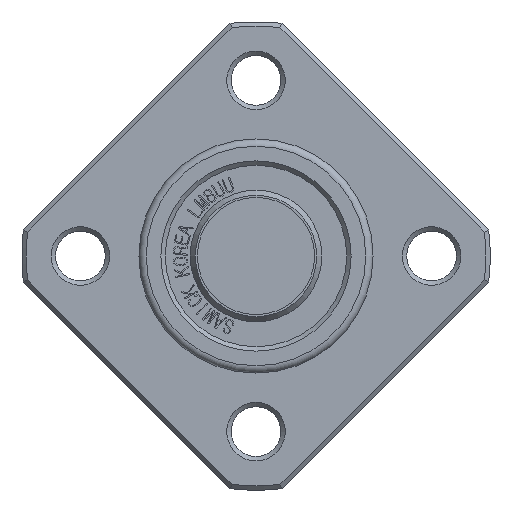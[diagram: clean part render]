
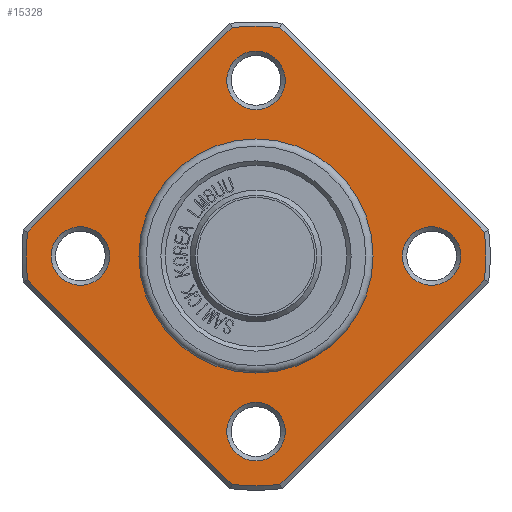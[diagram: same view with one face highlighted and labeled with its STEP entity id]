
A CAD part, front view. The second image highlights one B-rep face of the part: STEP entity #15328.
In plain terms, the highlighted planar face has unit normal (0, -1, 0).
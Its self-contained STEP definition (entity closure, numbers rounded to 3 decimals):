
#2183=FACE_BOUND('',#3342,.T.);
#2184=FACE_BOUND('',#3343,.T.);
#2185=FACE_BOUND('',#3344,.T.);
#2186=FACE_BOUND('',#3345,.T.);
#2187=FACE_BOUND('',#3346,.T.);
#2243=PLANE('',#16228);
#2484=FACE_OUTER_BOUND('',#3341,.T.);
#3341=EDGE_LOOP('',(#10596,#10597,#10598,#10599,#10600,#10601,#10602,#10603));
#3342=EDGE_LOOP('',(#10604));
#3343=EDGE_LOOP('',(#10605));
#3344=EDGE_LOOP('',(#10606,#10607));
#3345=EDGE_LOOP('',(#10608));
#3346=EDGE_LOOP('',(#10609));
#4255=LINE('',#18481,#5371);
#4256=LINE('',#18485,#5372);
#4257=LINE('',#18489,#5373);
#4258=LINE('',#18493,#5374);
#5371=VECTOR('',#16645,10.);
#5372=VECTOR('',#16648,10.);
#5373=VECTOR('',#16651,10.);
#5374=VECTOR('',#16654,10.);
#6500=CIRCLE('',#16226,2.);
#6502=CIRCLE('',#16229,15.7);
#6503=CIRCLE('',#16230,15.7);
#6504=CIRCLE('',#16231,15.7);
#6505=CIRCLE('',#16232,15.7);
#6506=CIRCLE('',#16233,2.);
#6507=CIRCLE('',#16234,2.);
#6508=CIRCLE('',#16235,8.);
#6509=CIRCLE('',#16236,8.);
#6510=CIRCLE('',#16237,2.);
#6594=VERTEX_POINT('',#18473);
#6596=VERTEX_POINT('',#18479);
#6597=VERTEX_POINT('',#18480);
#6598=VERTEX_POINT('',#18482);
#6599=VERTEX_POINT('',#18484);
#6600=VERTEX_POINT('',#18486);
#6601=VERTEX_POINT('',#18488);
#6602=VERTEX_POINT('',#18490);
#6603=VERTEX_POINT('',#18492);
#6604=VERTEX_POINT('',#18495);
#6605=VERTEX_POINT('',#18497);
#6606=VERTEX_POINT('',#18499);
#6607=VERTEX_POINT('',#18500);
#6608=VERTEX_POINT('',#18503);
#8190=EDGE_CURVE('',#6594,#6594,#6500,.T.);
#8193=EDGE_CURVE('',#6596,#6597,#4255,.T.);
#8194=EDGE_CURVE('',#6596,#6598,#6502,.T.);
#8195=EDGE_CURVE('',#6599,#6598,#4256,.T.);
#8196=EDGE_CURVE('',#6599,#6600,#6503,.T.);
#8197=EDGE_CURVE('',#6601,#6600,#4257,.T.);
#8198=EDGE_CURVE('',#6601,#6602,#6504,.T.);
#8199=EDGE_CURVE('',#6603,#6602,#4258,.T.);
#8200=EDGE_CURVE('',#6603,#6597,#6505,.T.);
#8201=EDGE_CURVE('',#6604,#6604,#6506,.T.);
#8202=EDGE_CURVE('',#6605,#6605,#6507,.T.);
#8203=EDGE_CURVE('',#6606,#6607,#6508,.T.);
#8204=EDGE_CURVE('',#6607,#6606,#6509,.T.);
#8205=EDGE_CURVE('',#6608,#6608,#6510,.T.);
#10596=ORIENTED_EDGE('',*,*,#8193,.F.);
#10597=ORIENTED_EDGE('',*,*,#8194,.T.);
#10598=ORIENTED_EDGE('',*,*,#8195,.F.);
#10599=ORIENTED_EDGE('',*,*,#8196,.T.);
#10600=ORIENTED_EDGE('',*,*,#8197,.F.);
#10601=ORIENTED_EDGE('',*,*,#8198,.T.);
#10602=ORIENTED_EDGE('',*,*,#8199,.F.);
#10603=ORIENTED_EDGE('',*,*,#8200,.T.);
#10604=ORIENTED_EDGE('',*,*,#8201,.F.);
#10605=ORIENTED_EDGE('',*,*,#8202,.F.);
#10606=ORIENTED_EDGE('',*,*,#8203,.F.);
#10607=ORIENTED_EDGE('',*,*,#8204,.F.);
#10608=ORIENTED_EDGE('',*,*,#8205,.F.);
#10609=ORIENTED_EDGE('',*,*,#8190,.F.);
#15328=ADVANCED_FACE('',(#2484,#2183,#2184,#2185,#2186,#2187),#2243,.T.);
#16226=AXIS2_PLACEMENT_3D('',#18474,#16638,#16639);
#16228=AXIS2_PLACEMENT_3D('',#18478,#16643,#16644);
#16229=AXIS2_PLACEMENT_3D('',#18483,#16646,#16647);
#16230=AXIS2_PLACEMENT_3D('',#18487,#16649,#16650);
#16231=AXIS2_PLACEMENT_3D('',#18491,#16652,#16653);
#16232=AXIS2_PLACEMENT_3D('',#18494,#16655,#16656);
#16233=AXIS2_PLACEMENT_3D('',#18496,#16657,#16658);
#16234=AXIS2_PLACEMENT_3D('',#18498,#16659,#16660);
#16235=AXIS2_PLACEMENT_3D('',#18501,#16661,#16662);
#16236=AXIS2_PLACEMENT_3D('',#18502,#16663,#16664);
#16237=AXIS2_PLACEMENT_3D('',#18504,#16665,#16666);
#16638=DIRECTION('center_axis',(0.,-1.,0.));
#16639=DIRECTION('ref_axis',(-1.,0.,0.));
#16643=DIRECTION('center_axis',(0.,-1.,0.));
#16644=DIRECTION('ref_axis',(0.,0.,-1.));
#16645=DIRECTION('',(-0.707,0.,-0.707));
#16646=DIRECTION('center_axis',(0.,-1.,0.));
#16647=DIRECTION('ref_axis',(1.,0.,0.));
#16648=DIRECTION('',(0.707,0.,-0.707));
#16649=DIRECTION('center_axis',(0.,-1.,0.));
#16650=DIRECTION('ref_axis',(1.,0.,0.));
#16651=DIRECTION('',(0.707,0.,0.707));
#16652=DIRECTION('center_axis',(0.,-1.,0.));
#16653=DIRECTION('ref_axis',(1.,0.,0.));
#16654=DIRECTION('',(-0.707,0.,0.707));
#16655=DIRECTION('center_axis',(0.,-1.,0.));
#16656=DIRECTION('ref_axis',(1.,0.,0.));
#16657=DIRECTION('center_axis',(0.,-1.,0.));
#16658=DIRECTION('ref_axis',(0.,0.,1.));
#16659=DIRECTION('center_axis',(0.,-1.,0.));
#16660=DIRECTION('ref_axis',(1.,0.,0.));
#16661=DIRECTION('center_axis',(0.,-1.,0.));
#16662=DIRECTION('ref_axis',(1.,0.,0.));
#16663=DIRECTION('center_axis',(0.,-1.,0.));
#16664=DIRECTION('ref_axis',(1.,0.,0.));
#16665=DIRECTION('center_axis',(0.,-1.,0.));
#16666=DIRECTION('ref_axis',(0.,0.,-1.));
#18473=CARTESIAN_POINT('',(-10.,2.5,0.));
#18474=CARTESIAN_POINT('Origin',(-12.,2.5,0.));
#18478=CARTESIAN_POINT('Origin',(8.,2.5,0.));
#18479=CARTESIAN_POINT('',(15.614,2.5,-1.639));
#18480=CARTESIAN_POINT('',(1.639,2.5,-15.614));
#18481=CARTESIAN_POINT('',(14.158,2.5,-3.096));
#18482=CARTESIAN_POINT('',(15.614,2.5,1.639));
#18483=CARTESIAN_POINT('Origin',(0.,2.5,0.));
#18484=CARTESIAN_POINT('',(1.639,2.5,15.614));
#18485=CARTESIAN_POINT('',(7.096,2.5,10.158));
#18486=CARTESIAN_POINT('',(-1.639,2.5,15.614));
#18487=CARTESIAN_POINT('Origin',(0.,2.5,0.));
#18488=CARTESIAN_POINT('',(-15.614,2.5,1.639));
#18489=CARTESIAN_POINT('',(-10.158,2.5,7.096));
#18490=CARTESIAN_POINT('',(-15.614,2.5,-1.639));
#18491=CARTESIAN_POINT('Origin',(0.,2.5,0.));
#18492=CARTESIAN_POINT('',(-1.639,2.5,-15.614));
#18493=CARTESIAN_POINT('',(-3.096,2.5,-14.158));
#18494=CARTESIAN_POINT('Origin',(0.,2.5,0.));
#18495=CARTESIAN_POINT('',(0.,2.5,10.));
#18496=CARTESIAN_POINT('Origin',(0.,2.5,12.));
#18497=CARTESIAN_POINT('',(10.,2.5,0.));
#18498=CARTESIAN_POINT('Origin',(12.,2.5,0.));
#18499=CARTESIAN_POINT('',(8.,2.5,0.));
#18500=CARTESIAN_POINT('',(-8.,2.5,0.));
#18501=CARTESIAN_POINT('Origin',(0.,2.5,0.));
#18502=CARTESIAN_POINT('Origin',(0.,2.5,0.));
#18503=CARTESIAN_POINT('',(0.,2.5,-10.));
#18504=CARTESIAN_POINT('Origin',(0.,2.5,-12.));
